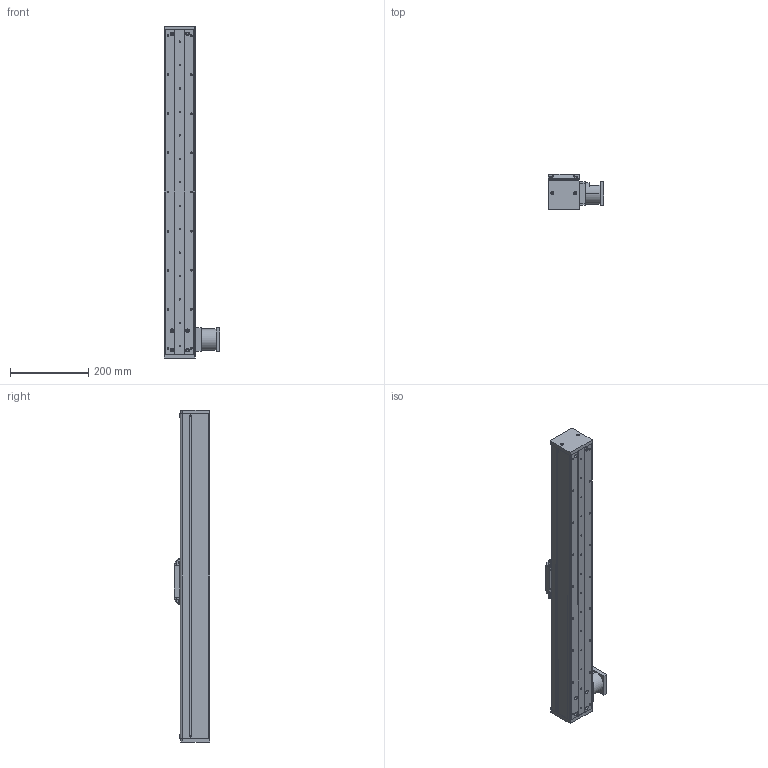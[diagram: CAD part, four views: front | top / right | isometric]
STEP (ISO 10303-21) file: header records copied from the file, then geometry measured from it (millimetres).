
FILE_DESCRIPTION (( 'STEP AP214' ), '1' );
FILE_NAME ('CF80-D-C-P-FWL.STEP', '2016-07-21T03:29:42', ( 'Sky123.Org' ), ( 'Sky123.Org' ), 'SwSTEP 2.0', 'SolidWorks 2015', '' );
FILE_SCHEMA (( 'AUTOMOTIVE_DESIGN' ));
Length unit declared in the file: millimetre
Products named in the file (17): CF80-D-C-P-FWL; CF86植雄耜; 翋雄粣; 肮祭謫5m21喘詢25囀謂14; 萇儂蟀諉ん; 翋雄釱; CF80Х啣з諳-P600; CF80詩湍揤啣2; CF80耜啣; CF80詩湍-P830; 賑雄輸裔啣; angular contact ball bearings gb_Rolling bearings S7001 GB 292-94; CF80賑雄輸; EGR15絳寢-P600; EGW15CA賑輸; CF80墙板-P600; CF80菁釱-P600
Assembly tree (20 placements, depth 2):
  CF80-D-C-P-FWL
    CF80菁釱-P600
    CF80墙板-P600
    EGW15CA賑輸
    EGR15絳寢-P600
    CF80賑雄輸
    angular contact ball bearings gb_Rolling bearings S7001 GB 292-94  x2
    賑雄輸裔啣
    CF80詩湍-P830
    CF80耜啣  x2
    CF80詩湍揤啣2  x2
    CF80Х啣з諳-P600
    翋雄釱
    萇儂蟀諉ん
    肮祭謫5m21喘詢25囀謂14  x2
    翋雄粣
    CF86植雄耜
Bounding box: 143.02 x 91 x 850 mm (x, y, z)
Volume: 1903663.6 mm3; surface area: 875823.8 mm2
Topology: 20 solids, 20 shells, 1092 faces, 3481 edges, 2324 vertices
Faces by surface type: plane 507, cylinder 415, torus 106, sphere 56, cone 8
Entity records: 32694 total; most frequent: CARTESIAN_POINT 6991, ORIENTED_EDGE 5098, DIRECTION 4895, EDGE_CURVE 2549, AXIS2_PLACEMENT_3D 1743, VERTEX_POINT 1699, VECTOR 1409, LINE 1409
